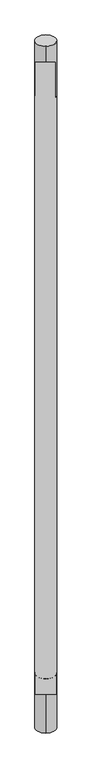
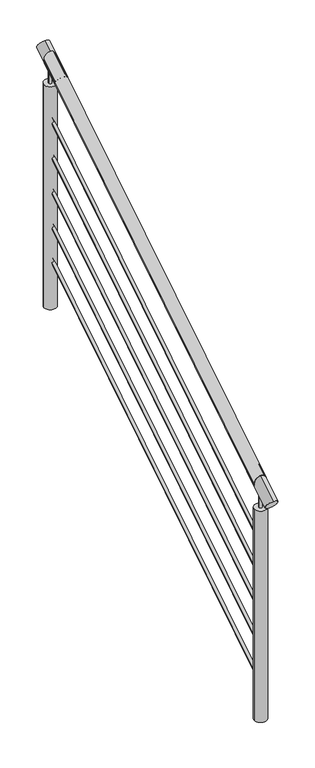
"""IFC4 building model written with IfcOpenShell, lengths in millimetres: railing geometry, Barandal escalera."""

import ifcopenshell
import ifcopenshell.guid

model = None  # the IFC model being written
_history = None  # IfcOwnerHistory: only IFC2X3 demands one
_inside = {}  # id of a spatial element -> (the spatial element, [elements in it])
_under = {}  # id of a project, library or spatial element -> (it, [spatial elements below it])
_declared = {}  # id of a project -> (the project, [libraries it declares])
_typed = {}  # id of a type object -> (the type object, [elements of that type])
_made_of = {}  # id of a material, layer set ... -> (it, [elements and type objects made of it])


def new_model(schema):
    """Start an empty IFC model of exactly this schema.

    Asked for "IFC4X3", IfcOpenShell would pick the latest addendum, in which some entities
    have other attributes; the version numbers below select the first issue.
    IFC2X3 requires an IfcOwnerHistory on every rooted entity: one is made here for all.
    """
    global model, _history
    if schema == "IFC4X3":
        model = ifcopenshell.file(schema_version=(4, 3, 0, 0))
    else:
        model = ifcopenshell.file(schema=schema)
    _inside.clear()
    _under.clear()
    _declared.clear()
    _typed.clear()
    _made_of.clear()
    _history = None
    if model.schema == "IFC2X3":
        org = make("IfcOrganization", Name="unknown")
        user = make(
            "IfcPersonAndOrganization",
            ThePerson=make("IfcPerson", FamilyName="unknown"),
            TheOrganization=org,
        )
        app = make(
            "IfcApplication",
            ApplicationDeveloper=org,
            Version="unknown",
            ApplicationFullName="unknown",
            ApplicationIdentifier="unknown",
        )
        _history = make(
            "IfcOwnerHistory",
            OwningUser=user,
            OwningApplication=app,
            ChangeAction="ADDED",
            CreationDate=0,
        )
    return model


def make(cls, **values):
    """One entity of the class cls with the attributes given. An attribute that is None is left unset."""
    return model.create_entity(
        cls, **{name: value for name, value in values.items() if value is not None}
    )


def rooted(cls, **values):
    """An entity with a GlobalId (a new one), such as an element, a storey or a relation."""
    return make(cls, GlobalId=ifcopenshell.guid.new(), OwnerHistory=_history, **values)


def si_unit(unit_type, name, prefix=None):
    """IfcSIUnit, for example si_unit("LENGTHUNIT", "METRE", prefix="MILLI")."""
    return make("IfcSIUnit", UnitType=unit_type, Prefix=prefix, Name=name)


def assignment(units):
    """IfcUnitAssignment: the units of a project."""
    return None if units is None else make("IfcUnitAssignment", Units=units)


def point(xyz):
    """IfcCartesianPoint."""
    return None if xyz is None else make("IfcCartesianPoint", Coordinates=xyz)


def direction(xyz):
    """IfcDirection."""
    return None if xyz is None else make("IfcDirection", DirectionRatios=xyz)


def frame(location, z_axis=None, x_axis=None):
    """IfcAxis2Placement3D, a coordinate frame: its origin and axes. An axis left out is left unset."""
    return make(
        "IfcAxis2Placement3D",
        Location=point(location),
        Axis=direction(z_axis),
        RefDirection=direction(x_axis),
    )


def frame_2d(location, x_axis=None):
    """IfcAxis2Placement2D, a coordinate frame in the plane: its origin and x axis."""
    return make(
        "IfcAxis2Placement2D", Location=point(location), RefDirection=direction(x_axis)
    )


def origin():
    """The frame at (0, 0, 0) with its axes left unset."""
    return frame((0.0, 0.0, 0.0))


def place(relative_to, where):
    """IfcLocalPlacement: puts the frame where relative to a parent placement (None: the world)."""
    return make(
        "IfcLocalPlacement", PlacementRelTo=relative_to, RelativePlacement=where
    )


def context(
    kind, dimensions, precision=None, world=None, true_north=None, identifier=None
):
    """IfcGeometricRepresentationContext, for example the 3D "Model" context."""
    return make(
        "IfcGeometricRepresentationContext",
        ContextIdentifier=identifier,
        ContextType=kind,
        CoordinateSpaceDimension=dimensions,
        Precision=precision,
        WorldCoordinateSystem=world,
        TrueNorth=true_north,
    )


def project(units=None, contexts=None):
    """IfcProject with its units and contexts."""
    return rooted(
        "IfcProject",
        Name="project",
        RepresentationContexts=contexts,
        UnitsInContext=assignment(units),
    )


def spatial(cls, under=None, at=None, **own):
    """A site, building, storey or space (cls), placed at a placement, below another one or the project."""
    s = rooted(cls, ObjectPlacement=at, **own)
    if under is not None:
        _under.setdefault(under.id(), (under, []))[1].append(s)
    return s


def circle_curve(where, radius):
    """IfcCircle in the frame where."""
    return make("IfcCircle", Position=where, Radius=radius)


def ellipse_curve(where, semi_axis1, semi_axis2):
    """IfcEllipse in the frame where."""
    return make(
        "IfcEllipse", Position=where, SemiAxis1=semi_axis1, SemiAxis2=semi_axis2
    )


def trimmed(basis, trim1, trim2, sense, master):
    """IfcTrimmedCurve: the piece of a basis curve between two trims."""
    return make(
        "IfcTrimmedCurve",
        BasisCurve=basis,
        Trim1=trim1,
        Trim2=trim2,
        SenseAgreement=sense,
        MasterRepresentation=master,
    )


def segment(curve, same_sense, transition):
    """IfcCompositeCurveSegment."""
    return make(
        "IfcCompositeCurveSegment",
        Transition=transition,
        SameSense=same_sense,
        ParentCurve=curve,
    )


def composite_curve(segments, self_intersect=None):
    """IfcCompositeCurve: segments joined end to end."""
    return make("IfcCompositeCurve", Segments=segments, SelfIntersect=self_intersect)


def outline(outer, holes=None, kind="AREA"):
    """IfcArbitraryClosedProfileDef: a profile drawn as a closed curve; with holes, ...WithVoids."""
    if holes is None:
        return make("IfcArbitraryClosedProfileDef", ProfileType=kind, OuterCurve=outer)
    return make(
        "IfcArbitraryProfileDefWithVoids",
        ProfileType=kind,
        OuterCurve=outer,
        InnerCurves=holes,
    )


def extrude(swept, where, along, depth):
    """IfcExtrudedAreaSolid: the profile swept, set in the frame where, extruded along a direction by depth."""
    return make(
        "IfcExtrudedAreaSolid",
        SweptArea=swept,
        Position=where,
        ExtrudedDirection=direction(along),
        Depth=depth,
    )


def shape(context_of_items, identifier, shape_type, items):
    """IfcShapeRepresentation: the items that make up one representation, for example the "Body"."""
    return make(
        "IfcShapeRepresentation",
        ContextOfItems=context_of_items,
        RepresentationIdentifier=identifier,
        RepresentationType=shape_type,
        Items=items,
    )


def source(mapping_origin, context_of_items, identifier, shape_type, items):
    """IfcRepresentationMap: a shape defined once, which mapped items show again and again."""
    return make(
        "IfcRepresentationMap",
        MappingOrigin=mapping_origin,
        MappedRepresentation=shape(context_of_items, identifier, shape_type, items),
    )


def transform(
    local_origin,
    x_axis=None,
    y_axis=None,
    z_axis=None,
    scale=None,
    scale2=None,
    scale3=None,
    uniform=True,
):
    """IfcCartesianTransformationOperator3D, or its non-uniform kind. x_axis, y_axis, z_axis: its Axis1, 2, 3."""
    if uniform:
        return make(
            "IfcCartesianTransformationOperator3D",
            Axis1=direction(x_axis),
            Axis2=direction(y_axis),
            LocalOrigin=point(local_origin),
            Scale=scale,
            Axis3=direction(z_axis),
        )
    return make(
        "IfcCartesianTransformationOperator3DnonUniform",
        Axis1=direction(x_axis),
        Axis2=direction(y_axis),
        LocalOrigin=point(local_origin),
        Scale=scale,
        Axis3=direction(z_axis),
        Scale2=scale2,
        Scale3=scale3,
    )


def mapped(mapping_source, mapping_target):
    """IfcMappedItem: shows the shape of a source again, moved by a transform."""
    return make(
        "IfcMappedItem", MappingSource=mapping_source, MappingTarget=mapping_target
    )


def made_of(thing, what):
    """Note that an element or type object is made of a material, layer set ...; save() writes the relation."""
    if what is not None:
        _made_of.setdefault(what.id(), (what, []))[1].append(thing)
    return thing


def element(
    cls,
    number,
    at=None,
    inside=None,
    cuts=None,
    type_object=None,
    material=None,
    context=None,
    identifier="Body",
    shape_type=None,
    held_by="IfcProductDefinitionShape",
    body=None,
    shapes=None,
    **own,
):
    """One element of the class cls, such as IfcWall. Its Tag is "e" and its number.

    at: its placement. inside: the storey or other place that contains it. cuts: it is an
    opening in that element (IfcRelVoidsElement). A single representation is given by context,
    identifier, shape_type and body (its items); several are given by shapes. held_by: the class
    of the entity that holds the representations. save() writes the other relations.
    """
    e = rooted(cls, Tag="e%d" % number, ObjectPlacement=at, **own)
    if body is not None:
        shapes = [shape(context, identifier, shape_type, body)]
    if shapes is not None:
        e.Representation = make(held_by, Representations=shapes)
    if inside is not None:
        _inside.setdefault(inside.id(), (inside, []))[1].append(e)
    if cuts is not None:
        rooted(
            "IfcRelVoidsElement", RelatingBuildingElement=cuts, RelatedOpeningElement=e
        )
    if type_object is not None:
        _typed.setdefault(type_object.id(), (type_object, []))[1].append(e)
    return made_of(e, material)


def aggregate(whole, parts):
    """IfcRelAggregates: a whole, such as a stair, and the parts it consists of."""
    return rooted("IfcRelAggregates", RelatingObject=whole, RelatedObjects=parts)


def save(model, path):
    """Write the relations noted so far, then the file.

    IfcRelAggregates (storeys below a building ...), IfcRelContainedInSpatialStructure (elements
    in a storey), IfcRelDefinesByType, IfcRelAssociatesMaterial and IfcRelDeclares: one each for
    every whole, place, type object, material and project.
    """
    for whole, parts in _under.values():
        aggregate(whole, parts)
    for where, things in _inside.values():
        rooted(
            "IfcRelContainedInSpatialStructure",
            RelatedElements=things,
            RelatingStructure=where,
        )
    for kind, things in _typed.values():
        rooted("IfcRelDefinesByType", RelatedObjects=things, RelatingType=kind)
    for what, things in _made_of.values():
        rooted("IfcRelAssociatesMaterial", RelatedObjects=things, RelatingMaterial=what)
    for by, libraries in _declared.values():
        rooted("IfcRelDeclares", RelatingContext=by, RelatedDefinitions=libraries)
    model.write(path)


def plane_surface(at):
    """IfcPlane: the flat surface through the origin of the frame at, square to its z axis."""
    return make("IfcPlane", Position=at)


def cylinder_surface(at, radius):
    """IfcCylindricalSurface: all points at the distance radius from the z axis of the frame at."""
    return make("IfcCylindricalSurface", Position=at, Radius=radius)


def advanced_brep(points, edges, surfaces, faces):
    """IfcAdvancedBrep: a solid bounded by faces that lie on surfaces and meet in shared edges.

    An edge is (start, end): straight between two places in points (the first is 0);
    or (start, end, curve); or (start, end, curve, False) where it runs against its curve.
    A face is (place in surfaces, loops), or (place, loops, False) where it looks against
    its surface's normal. A loop lists edges by number (the first is 1), with a minus sign
    where the edge is run from its end to its start. The first loop is the outer one.
    """
    corners = [point(p) for p in points]
    vertices = [make("IfcVertexPoint", VertexGeometry=c) for c in corners]
    made = []
    for start, end, *more in edges:
        made.append(
            make(
                "IfcEdgeCurve",
                EdgeStart=vertices[start],
                EdgeEnd=vertices[end],
                EdgeGeometry=more[0] if more else make("IfcPolyline", Points=[corners[start], corners[end]]),
                SameSense=more[1] if len(more) > 1 else True,
            )
        )
    hull = []
    for where, loops, *sense in faces:
        bounds = []
        for j, loop in enumerate(loops):
            ring = [make("IfcOrientedEdge", EdgeElement=made[abs(k) - 1], Orientation=k > 0) for k in loop]
            bounds.append(
                make(
                    "IfcFaceOuterBound" if j == 0 else "IfcFaceBound",
                    Bound=make("IfcEdgeLoop", EdgeList=ring),
                    Orientation=True,
                )
            )
        hull.append(make("IfcAdvancedFace", Bounds=bounds, FaceSurface=surfaces[where], SameSense=sense[0] if sense else True))
    return make("IfcAdvancedBrep", Outer=make("IfcClosedShell", CfsFaces=hull))


def railing_a6b679a9(model_context):
    return source(origin(), model_context, "Body", "SolidModel", [
        advanced_brep(
        [(41579.1059119, 26531.0432167, -37.5), (41629.9059119, 26531.0432167, -37.5), (41579.1059119, 28011.0432167, 887.5), (41629.9059119, 28011.0432167, 887.5)],
        [
            (0, 1, ellipse_curve(frame((41604.5059119, 26531.0432167, -37.5), z_axis=(0.0, -1.0, 0.0), x_axis=(0.0, 0.0, -1.0)), 29.9528901, 25.4)),
            (1, 0, ellipse_curve(frame((41604.5059119, 26531.0432167, -37.5), z_axis=(0.0, -1.0, 0.0), x_axis=(0.0, 0.0, -1.0)), 29.9528901, 25.4)),
            (2, 3, ellipse_curve(frame((41604.5059119, 28011.0432167, 887.5), z_axis=(0.0, 1.0, 0.0), x_axis=(0.0, 0.0, -1.0)), 29.9528901, 25.4)),
            (3, 2, ellipse_curve(frame((41604.5059119, 28011.0432167, 887.5), z_axis=(0.0, 1.0, 0.0), x_axis=(0.0, 0.0, -1.0)), 29.9528901, 25.4)),
            (0, 2),
            (3, 1),
        ],
        [
            plane_surface(frame((41604.5059119, 26531.0432167, -37.5), z_axis=(0.0, -1.0, 0.0), x_axis=(0.0, 0.0, 1.0))),
            plane_surface(frame((41604.5059119, 28011.0432167, 887.5), z_axis=(0.0, 1.0, 0.0), x_axis=(0.0, 0.0, 1.0))),
            cylinder_surface(frame((41604.5059119, 26531.0432167, -37.5), z_axis=(0.0, -0.8479983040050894, -0.5299989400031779), x_axis=(1.0, 0.0, 0.0)), 25.4),
        ],
        [
            (0, [[1, 2]]),
            (1, [[3, 4]]),
            (2, [[-1, 5, -4, 6]]),
            (2, [[-2, -6, -3, -5]]),
        ],
    ),
        advanced_brep(
        [(41598.1559119, 26531.0432167, -287.5), (41610.8559119, 26531.0432167, -287.5), (41598.1559119, 28011.0432167, 637.5), (41610.8559119, 28011.0432167, 637.5)],
        [
            (0, 1, ellipse_curve(frame((41604.5059119, 26531.0432167, -287.5), z_axis=(0.0, -1.0, 0.0), x_axis=(0.0, 0.0, -1.0)), 7.4882225, 6.35)),
            (1, 0, ellipse_curve(frame((41604.5059119, 26531.0432167, -287.5), z_axis=(0.0, -1.0, 0.0), x_axis=(0.0, 0.0, -1.0)), 7.4882225, 6.35)),
            (2, 3, ellipse_curve(frame((41604.5059119, 28011.0432167, 637.5), z_axis=(0.0, 1.0, 0.0), x_axis=(0.0, 0.0, -1.0)), 7.4882225, 6.35)),
            (3, 2, ellipse_curve(frame((41604.5059119, 28011.0432167, 637.5), z_axis=(0.0, 1.0, 0.0), x_axis=(0.0, 0.0, -1.0)), 7.4882225, 6.35)),
            (0, 2),
            (3, 1),
        ],
        [
            plane_surface(frame((41604.5059119, 26531.0432167, -287.5), z_axis=(0.0, -1.0, 0.0), x_axis=(0.0, 0.0, 1.0))),
            plane_surface(frame((41604.5059119, 28011.0432167, 637.5), z_axis=(0.0, 1.0, 0.0), x_axis=(0.0, 0.0, 1.0))),
            cylinder_surface(frame((41604.5059119, 26531.0432167, -287.5), z_axis=(0.0, -0.8479983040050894, -0.5299989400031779), x_axis=(1.0, 0.0, 0.0)), 6.35),
        ],
        [
            (0, [[1, 2]]),
            (1, [[3, 4]]),
            (2, [[-1, 5, -4, 6]]),
            (2, [[-2, -6, -3, -5]]),
        ],
    ),
        advanced_brep(
        [(41598.1559119, 26531.0432167, -437.5), (41610.8559119, 26531.0432167, -437.5), (41598.1559119, 28011.0432167, 487.5), (41610.8559119, 28011.0432167, 487.5)],
        [
            (0, 1, ellipse_curve(frame((41604.5059119, 26531.0432167, -437.5), z_axis=(0.0, -1.0, 0.0), x_axis=(0.0, 0.0, -1.0)), 7.4882225, 6.35)),
            (1, 0, ellipse_curve(frame((41604.5059119, 26531.0432167, -437.5), z_axis=(0.0, -1.0, 0.0), x_axis=(0.0, 0.0, -1.0)), 7.4882225, 6.35)),
            (2, 3, ellipse_curve(frame((41604.5059119, 28011.0432167, 487.5), z_axis=(0.0, 1.0, 0.0), x_axis=(0.0, 0.0, -1.0)), 7.4882225, 6.35)),
            (3, 2, ellipse_curve(frame((41604.5059119, 28011.0432167, 487.5), z_axis=(0.0, 1.0, 0.0), x_axis=(0.0, 0.0, -1.0)), 7.4882225, 6.35)),
            (0, 2),
            (3, 1),
        ],
        [
            plane_surface(frame((41604.5059119, 26531.0432167, -437.5), z_axis=(0.0, -1.0, 0.0), x_axis=(0.0, 0.0, 1.0))),
            plane_surface(frame((41604.5059119, 28011.0432167, 487.5), z_axis=(0.0, 1.0, 0.0), x_axis=(0.0, 0.0, 1.0))),
            cylinder_surface(frame((41604.5059119, 26531.0432167, -437.5), z_axis=(0.0, -0.8479983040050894, -0.5299989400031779), x_axis=(1.0, 0.0, 0.0)), 6.35),
        ],
        [
            (0, [[1, 2]]),
            (1, [[3, 4]]),
            (2, [[-1, 5, -4, 6]]),
            (2, [[-2, -6, -3, -5]]),
        ],
    ),
        advanced_brep(
        [(41598.1559119, 26531.0432167, -587.5), (41610.8559119, 26531.0432167, -587.5), (41598.1559119, 28011.0432167, 337.5), (41610.8559119, 28011.0432167, 337.5)],
        [
            (0, 1, ellipse_curve(frame((41604.5059119, 26531.0432167, -587.5), z_axis=(0.0, -1.0, 0.0), x_axis=(0.0, 0.0, -1.0)), 7.4882225, 6.35)),
            (1, 0, ellipse_curve(frame((41604.5059119, 26531.0432167, -587.5), z_axis=(0.0, -1.0, 0.0), x_axis=(0.0, 0.0, -1.0)), 7.4882225, 6.35)),
            (2, 3, ellipse_curve(frame((41604.5059119, 28011.0432167, 337.5), z_axis=(0.0, 1.0, 0.0), x_axis=(0.0, 0.0, -1.0)), 7.4882225, 6.35)),
            (3, 2, ellipse_curve(frame((41604.5059119, 28011.0432167, 337.5), z_axis=(0.0, 1.0, 0.0), x_axis=(0.0, 0.0, -1.0)), 7.4882225, 6.35)),
            (0, 2),
            (3, 1),
        ],
        [
            plane_surface(frame((41604.5059119, 26531.0432167, -587.5), z_axis=(0.0, -1.0, 0.0), x_axis=(0.0, 0.0, 1.0))),
            plane_surface(frame((41604.5059119, 28011.0432167, 337.5), z_axis=(0.0, 1.0, 0.0), x_axis=(0.0, 0.0, 1.0))),
            cylinder_surface(frame((41604.5059119, 26531.0432167, -587.5), z_axis=(0.0, -0.8479983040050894, -0.5299989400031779), x_axis=(1.0, 0.0, 0.0)), 6.35),
        ],
        [
            (0, [[1, 2]]),
            (1, [[3, 4]]),
            (2, [[-1, 5, -4, 6]]),
            (2, [[-2, -6, -3, -5]]),
        ],
    ),
        advanced_brep(
        [(41598.1559119, 26531.0432167, -737.5), (41610.8559119, 26531.0432167, -737.5), (41598.1559119, 28011.0432167, 187.5), (41610.8559119, 28011.0432167, 187.5)],
        [
            (0, 1, ellipse_curve(frame((41604.5059119, 26531.0432167, -737.5), z_axis=(0.0, -1.0, 0.0), x_axis=(0.0, 0.0, -1.0)), 7.4882225, 6.35)),
            (1, 0, ellipse_curve(frame((41604.5059119, 26531.0432167, -737.5), z_axis=(0.0, -1.0, 0.0), x_axis=(0.0, 0.0, -1.0)), 7.4882225, 6.35)),
            (2, 3, ellipse_curve(frame((41604.5059119, 28011.0432167, 187.5), z_axis=(0.0, 1.0, 0.0), x_axis=(0.0, 0.0, -1.0)), 7.4882225, 6.35)),
            (3, 2, ellipse_curve(frame((41604.5059119, 28011.0432167, 187.5), z_axis=(0.0, 1.0, 0.0), x_axis=(0.0, 0.0, -1.0)), 7.4882225, 6.35)),
            (0, 2),
            (3, 1),
        ],
        [
            plane_surface(frame((41604.5059119, 26531.0432167, -737.5), z_axis=(0.0, -1.0, 0.0), x_axis=(0.0, 0.0, 1.0))),
            plane_surface(frame((41604.5059119, 28011.0432167, 187.5), z_axis=(0.0, 1.0, 0.0), x_axis=(0.0, 0.0, 1.0))),
            cylinder_surface(frame((41604.5059119, 26531.0432167, -737.5), z_axis=(0.0, -0.8479983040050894, -0.5299989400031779), x_axis=(1.0, 0.0, 0.0)), 6.35),
        ],
        [
            (0, [[1, 2]]),
            (1, [[3, 4]]),
            (2, [[-1, 5, -4, 6]]),
            (2, [[-2, -6, -3, -5]]),
        ],
    ),
        advanced_brep(
        [(41598.1559119, 26531.0432167, -887.5), (41610.8559119, 26531.0432167, -887.5), (41598.1559119, 28011.0432167, 37.5), (41610.8559119, 28011.0432167, 37.5)],
        [
            (0, 1, ellipse_curve(frame((41604.5059119, 26531.0432167, -887.5), z_axis=(0.0, -1.0, 0.0), x_axis=(0.0, 0.0, -1.0)), 7.4882225, 6.35)),
            (1, 0, ellipse_curve(frame((41604.5059119, 26531.0432167, -887.5), z_axis=(0.0, -1.0, 0.0), x_axis=(0.0, 0.0, -1.0)), 7.4882225, 6.35)),
            (2, 3, ellipse_curve(frame((41604.5059119, 28011.0432167, 37.5), z_axis=(0.0, 1.0, 0.0), x_axis=(0.0, 0.0, -1.0)), 7.4882225, 6.35)),
            (3, 2, ellipse_curve(frame((41604.5059119, 28011.0432167, 37.5), z_axis=(0.0, 1.0, 0.0), x_axis=(0.0, 0.0, -1.0)), 7.4882225, 6.35)),
            (0, 2),
            (3, 1),
        ],
        [
            plane_surface(frame((41604.5059119, 26531.0432167, -887.5), z_axis=(0.0, -1.0, 0.0), x_axis=(0.0, 0.0, 1.0))),
            plane_surface(frame((41604.5059119, 28011.0432167, 37.5), z_axis=(0.0, 1.0, 0.0), x_axis=(0.0, 0.0, 1.0))),
            cylinder_surface(frame((41604.5059119, 26531.0432167, -887.5), z_axis=(0.0, -0.8479983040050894, -0.5299989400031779), x_axis=(1.0, 0.0, 0.0)), 6.35),
        ],
        [
            (0, [[1, 2]]),
            (1, [[3, 4]]),
            (2, [[-1, 5, -4, 6]]),
            (2, [[-2, -6, -3, -5]]),
        ],
    ),
        extrude(outline(composite_curve([segment(trimmed(circle_curve(frame_2d((0.0, 25.4)), 25.4), [point((0.0, 0.0))], [point((0.0, 50.8))], False, "CARTESIAN"), True, "CONTINUOUS"), segment(trimmed(circle_curve(frame_2d((0.0, 25.4)), 25.4), [point((0.0, 50.8))], [point((0.0, 0.0))], False, "CARTESIAN"), True, "CONTINUOUS")], self_intersect=False)), frame((41604.5059119, 27947.4396095, 817.8031651), z_axis=(0.0, 0.848048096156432, 0.5299192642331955), x_axis=(-1.0, 0.0, 0.0)), (0.0, 0.0, 1.0), 150.0),
        extrude(outline(composite_curve([segment(trimmed(circle_curve(frame_2d((41604.5059119, 28011.0432167)), 6.35), [point((41610.8559119, 28011.0432167))], [point((41598.1559119, 28011.0432167))], False, "CARTESIAN"), True, "CONTINUOUS"), segment(trimmed(circle_curve(frame_2d((41604.5059119, 28011.0432167)), 6.35), [point((41598.1559119, 28011.0432167))], [point((41610.8559119, 28011.0432167))], False, "CARTESIAN"), True, "CONTINUOUS")], self_intersect=False)), frame((0.0, 0.0, 782.5471099), z_axis=(0.0, 0.0, 1.0), x_axis=(1.0, 0.0, 0.0)), (0.0, 0.0, 1.0), 75.0),
        extrude(outline(composite_curve([segment(trimmed(circle_curve(frame_2d((41604.5059119, 28011.0432167)), 25.4), [point((41629.9059119, 28011.0432167))], [point((41579.1059119, 28011.0432167))], False, "CARTESIAN"), True, "CONTINUOUS"), segment(trimmed(circle_curve(frame_2d((41604.5059119, 28011.0432167)), 25.4), [point((41579.1059119, 28011.0432167))], [point((41629.9059119, 28011.0432167))], False, "CARTESIAN"), True, "CONTINUOUS")], self_intersect=False)), frame((0.0, 0.0, -175.0), z_axis=(0.0, 0.0, 1.0), x_axis=(1.0, 0.0, 0.0)), (0.0, 0.0, 1.0), 957.5471099),
        extrude(outline(composite_curve([segment(trimmed(circle_curve(frame_2d((0.0, 25.4)), 25.4), [point((0.0, 0.0))], [point((0.0, 50.8))], False, "CARTESIAN"), True, "CONTINUOUS"), segment(trimmed(circle_curve(frame_2d((0.0, 25.4)), 25.4), [point((0.0, 50.8))], [point((0.0, 0.0))], False, "CARTESIAN"), True, "CONTINUOUS")], self_intersect=False)), frame((41604.5059119, 26467.4396095, -107.1968349), z_axis=(0.0, 0.8480480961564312, 0.5299192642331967), x_axis=(-1.0, 0.0, 0.0)), (0.0, 0.0, 1.0), 150.0),
        extrude(outline(composite_curve([segment(trimmed(circle_curve(frame_2d((41604.5059119, 26531.0432167)), 6.35), [point((41610.8559119, 26531.0432167))], [point((41598.1559119, 26531.0432167))], False, "CARTESIAN"), True, "CONTINUOUS"), segment(trimmed(circle_curve(frame_2d((41604.5059119, 26531.0432167)), 6.35), [point((41598.1559119, 26531.0432167))], [point((41610.8559119, 26531.0432167))], False, "CARTESIAN"), True, "CONTINUOUS")], self_intersect=False)), frame((0.0, 0.0, -142.4528901), z_axis=(0.0, 0.0, 1.0), x_axis=(1.0, 0.0, 0.0)), (0.0, 0.0, 1.0), 75.0),
        extrude(outline(composite_curve([segment(trimmed(circle_curve(frame_2d((41604.5059119, 26531.0432167)), 25.4), [point((41629.9059119, 26531.0432167))], [point((41579.1059119, 26531.0432167))], False, "CARTESIAN"), True, "CONTINUOUS"), segment(trimmed(circle_curve(frame_2d((41604.5059119, 26531.0432167)), 25.4), [point((41579.1059119, 26531.0432167))], [point((41629.9059119, 26531.0432167))], False, "CARTESIAN"), True, "CONTINUOUS")], self_intersect=False)), frame((0.0, 0.0, -1050.0), z_axis=(0.0, 0.0, 1.0), x_axis=(1.0, 0.0, 0.0)), (0.0, 0.0, 1.0), 907.5471099),
    ])


if __name__ == "__main__":
    model = new_model("IFC4")
    model_context = context("Model", 3, world=origin())
    ifc_project = project(units=[si_unit("LENGTHUNIT", "METRE", prefix="MILLI")], contexts=[model_context])
    site = spatial("IfcSite", under=ifc_project)
    building = spatial("IfcBuilding", under=site)
    placement = place(None, origin())
    railing_shape = railing_a6b679a9(model_context)
    element("IfcRailing", 1, ObjectType="Barandal escalera", at=placement, inside=building, context=model_context, shape_type="MappedRepresentation", body=[
        mapped(railing_shape, transform((0.0, 0.0, 0.0), x_axis=(1.0, 0.0, 0.0), y_axis=(0.0, 1.0, 0.0), z_axis=(0.0, 0.0, 1.0))),
    ])
    save(model, "model.ifc")
